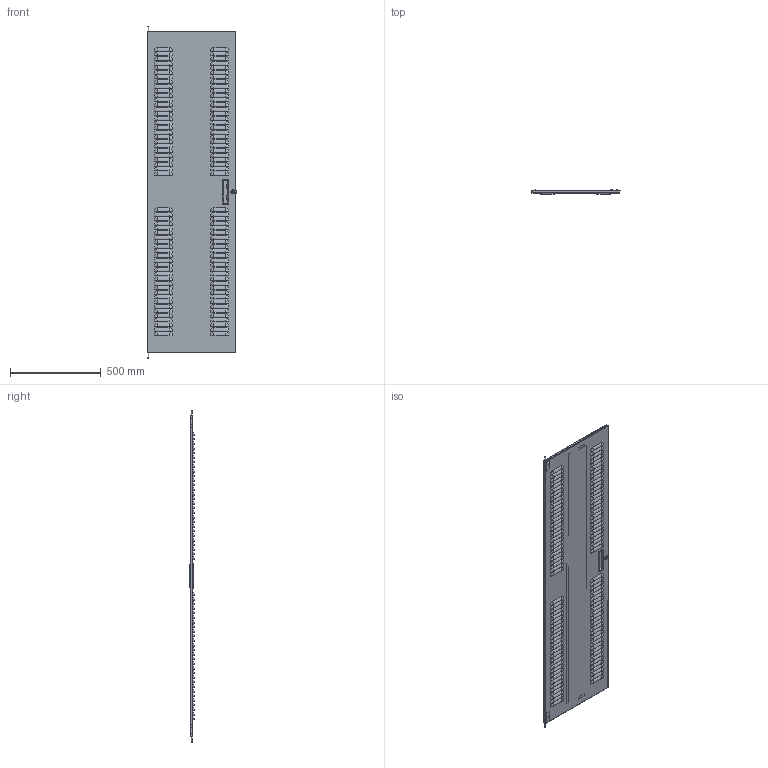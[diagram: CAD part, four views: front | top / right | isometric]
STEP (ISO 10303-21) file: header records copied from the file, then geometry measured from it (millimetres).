
FILE_DESCRIPTION( ( 'Unknown' ), '1' );
FILE_NAME( 'Q:/WEB DRAWINGS/STEP/CDF1970L.stp', 'Unknown', ( 'Unknown' ), ( 'Unknown' ), 'PSStep 17.0.49', 'Unknown', ' ' );
FILE_SCHEMA( ( 'AUTOMOTIVE_DESIGN { 1 0 10303 214 1 1 1 1 }' ) );
Length unit declared in the file: millimetre
Products named in the file (10): COM54617; HNG14581; std26020; COM43761; COM40864; Assem1; HAN13044; LOC13312; PIN17620
Assembly tree (11 placements, depth 4):
  Assem1
    HAN13044
    LOC13312
    PIN17620  x2
    COM43761
      COM40864
      COM43761
      COM54617  x2
        HNG14581
        std26020
Bounding box: 496.67 x 22.99 x 1832.25 mm (x, y, z)
Volume: 1801209.4 mm3; surface area: 2605977.5 mm2
Topology: 10 solids, 10 shells, 1194 faces, 3633 edges, 2026 vertices
Faces by surface type: sphere 448, plane 427, cylinder 294, bspline 12, cone 9, torus 4
Full cylindrical faces by diameter (mm): 4.775 x2, 5.182 x2, 6.35 x8, 8.382 x1, 13.868 x1, 13.97 x1, 21.996 x1
Entity records: 46992 total; most frequent: DIRECTION 7054, CARTESIAN_POINT 6838, ORIENTED_EDGE 6168, EDGE_CURVE 3084, AXIS2_PLACEMENT_3D 2846, VERTEX_POINT 1970, CIRCLE 1674, EDGE_LOOP 1416
